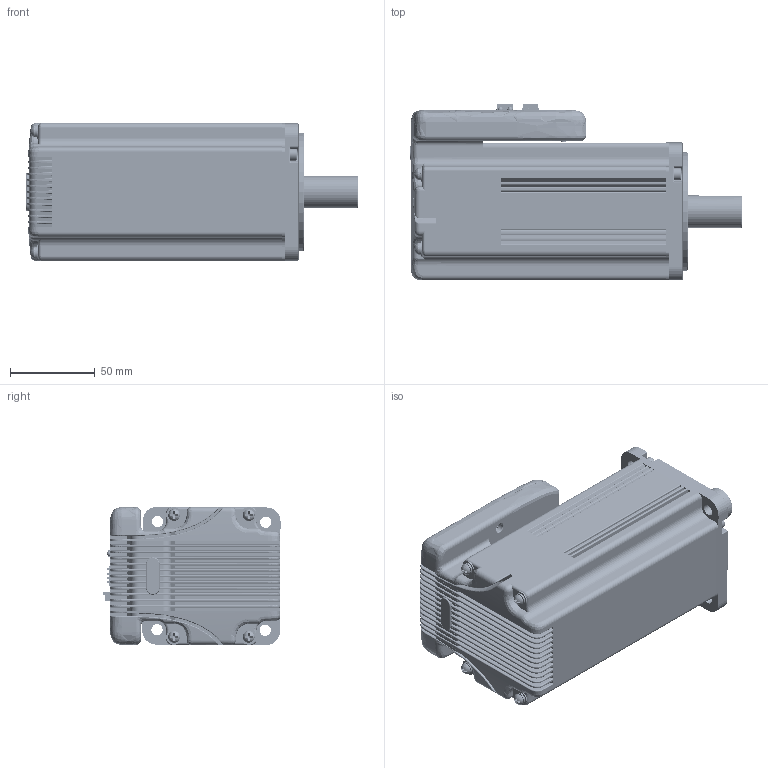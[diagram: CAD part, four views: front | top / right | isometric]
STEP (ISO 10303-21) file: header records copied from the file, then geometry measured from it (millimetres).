
FILE_DESCRIPTION((''),'2;1');
FILE_NAME('80-750W-ALL_ASM','2021-11-16T09:47:47',('chensf'),(''),'CREO PARAMETRIC BY PTC INC, 2019010','CREO PARAMETRIC BY PTC INC, 2019010','');
FILE_SCHEMA(('CONFIG_CONTROL_DESIGN','GEOMETRIC_VALIDATION_PROPERTIES_MIM'));
Products named in the file (50): 80-750W-TOP; 80-750W-BOT; 80-750W-BACK; ZHIJIA; PBZ; 80-750W-BODY_ASM; PCB-01; PCB-02; PRT0004; HEADER_2_0_4X; XB; PB_4P; B04B-ZESK-1D; PHOENIX______2__6; CONNECTOR_5MMCLOSED4PIN_MALE; PAIZHEN; PAIMU; 6-1-5P-900; PCB3; 6P-1-5; 80-750W-PCB-ALL_ASM; ZHAO; GUIJIAO; 80-750W_ASM; M3X8_GB818_9; M4X8_GB818_9; D3_GB9074_26_11; D3_GB9074_24_14; M4X8_GB9074_4_ASM; M3-8-SCREW_ASM; 750W23-277120001; 750W23-278500001; _1-SOLID1_1_20001; 750WACM1-584100001; CROSS_RECESSED_COUNTERSUN-58562; 750WACM1-586990001; 750WACM1-588530001; 750WACM1-595610001; CROSS_RECESSED_COUNTERSUN-60162; 750WACM1-603030001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
Assembly tree (60 placements, depth 4):
  80-750W-ALL_ASM
    80-750W_ASM
      80-750W-BODY_ASM
        80-750W-TOP
        80-750W-BOT
        80-750W-BACK
        ZHIJIA
        PBZ
      80-750W-PCB-ALL_ASM
        PCB-01
        PCB-02
        PRT0004
        HEADER_2_0_4X
        XB
        PB_4P
        B04B-ZESK-1D  x2
        PHOENIX______2__6
        CONNECTOR_5MMCLOSED4PIN_MALE
        PAIZHEN  x2
        PAIMU  x2
        6-1-5P-900
        PCB3
        6P-1-5
      ZHAO
      GUIJIAO
    M3-8-SCREW_ASM
      M3X8_GB818_9  x6
      M4X8_GB9074_4_ASM  x4
        M4X8_GB818_9
        D3_GB9074_26_11
        D3_GB9074_24_14
    ISV2-8080V48C-B_ASM
      ISV2-80750W48V0002_ASM
        750W23-277120001
        750W23-278500001
        _1-SOLID1_1_20001
        750WACM1-584100001
        CROSS_RECESSED_COUNTERSUN-58562
        750WACM1-586990001
        750WACM1-588530001
        750WACM1-595610001
        CROSS_RECESSED_COUNTERSUN-60162
        750WACM1-603030001
        750W23-607520001
        750W23-879040001
        750WACM1-884940001
        80CDC-1-SOLID10001
        CROSS_RECESSED_COUNTERSUN-88959
        750WACM1-892530001
        750W23-898450001
Bounding box: 195.3 x 104.17 x 81.34 mm (x, y, z)
Volume: 530619.9 mm3; surface area: 335471.8 mm2
Topology: 60 solids, 61 shells, 6897 faces, 17748 edges, 10972 vertices
Faces by surface type: plane 3548, cylinder 1716, cone 714, torus 319, bspline 217, sphere 204, extrusion 151, revolution 28
Entity records: 274610 total; most frequent: CARTESIAN_POINT 61561, ORIENTED_EDGE 31178, DIRECTION 30296, PRESENTATION_STYLE_ASSIGNMENT 15816, EDGE_CURVE 15589, STYLED_ITEM 13180, CURVE_STYLE 12842, AXIS2_PLACEMENT_3D 10317
